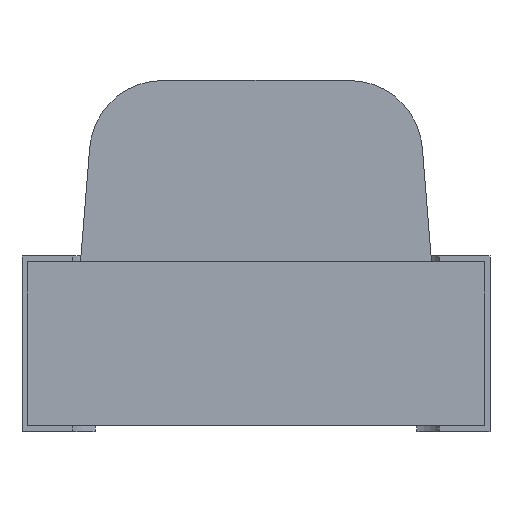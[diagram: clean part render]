
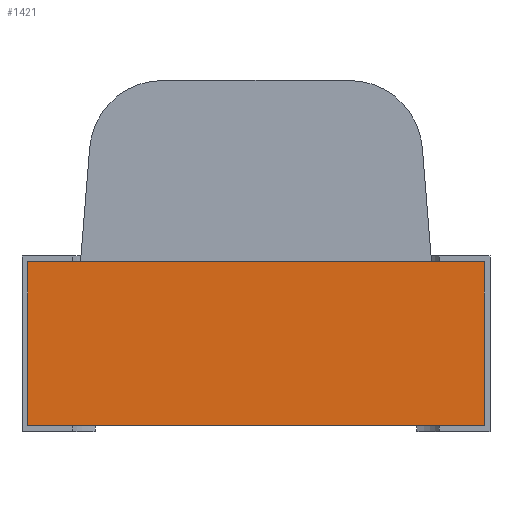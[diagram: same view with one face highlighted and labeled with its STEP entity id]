
A CAD part, front view. The second image highlights one B-rep face of the part: STEP entity #1421.
In plain terms, the highlighted planar face has unit normal (0, -1, 0).
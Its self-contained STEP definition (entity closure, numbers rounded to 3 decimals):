
#114 = LINE ( 'NONE', #1002, #172 ) ;
#131 = VECTOR ( 'NONE', #1004, 1000. ) ;
#133 = LINE ( 'NONE', #1066, #137 ) ;
#137 = VECTOR ( 'NONE', #1084, 1000. ) ;
#172 = VECTOR ( 'NONE', #1000, 1000. ) ;
#176 = LINE ( 'NONE', #1006, #131 ) ;
#211 = DIRECTION ( 'NONE',  ( 0., 0., 1. ) ) ;
#219 = CARTESIAN_POINT ( 'NONE',  ( -0.78, 0., -0.28 ) ) ;
#326 = ORIENTED_EDGE ( 'NONE', *, *, #880, .F. ) ;
#327 = ORIENTED_EDGE ( 'NONE', *, *, #896, .F. ) ;
#328 = ORIENTED_EDGE ( 'NONE', *, *, #898, .F. ) ;
#609 = ORIENTED_EDGE ( 'NONE', *, *, #911, .F. ) ;
#662 = CARTESIAN_POINT ( 'NONE',  ( -0.78, 0., -0.28 ) ) ;
#666 = CARTESIAN_POINT ( 'NONE',  ( 0.78, 0., 0.28 ) ) ;
#676 = CARTESIAN_POINT ( 'NONE',  ( -0.78, 0., 0.28 ) ) ;
#685 = CARTESIAN_POINT ( 'NONE',  ( 0.78, 0., -0.28 ) ) ;
#880 = EDGE_CURVE ( 'NONE', #1811, #1782, #1808, .T. ) ;
#896 = EDGE_CURVE ( 'NONE', #1776, #1811, #176, .T. ) ;
#898 = EDGE_CURVE ( 'NONE', #1790, #1776, #114, .T. ) ;
#911 = EDGE_CURVE ( 'NONE', #1782, #1790, #133, .T. ) ;
#919 = DIRECTION ( 'NONE',  ( 0., 0., 1. ) ) ;
#920 = DIRECTION ( 'NONE',  ( 0., 1., 0. ) ) ;
#925 = CARTESIAN_POINT ( 'NONE',  ( 0., 0., 0. ) ) ;
#926 = PLANE ( 'NONE',  #1899 ) ;
#1000 = DIRECTION ( 'NONE',  ( 0., 0., -1. ) ) ;
#1002 = CARTESIAN_POINT ( 'NONE',  ( 0.78, 0., -0.28 ) ) ;
#1004 = DIRECTION ( 'NONE',  ( -1., 0., 0. ) ) ;
#1006 = CARTESIAN_POINT ( 'NONE',  ( -0.78, 0., -0.28 ) ) ;
#1066 = CARTESIAN_POINT ( 'NONE',  ( -0.78, 0., 0.28 ) ) ;
#1084 = DIRECTION ( 'NONE',  ( 1., 0., 0. ) ) ;
#1421 = ADVANCED_FACE ( 'NONE', ( #1997 ), #926, .F. ) ;
#1696 = EDGE_LOOP ( 'NONE', ( #326, #327, #328, #609 ) ) ;
#1776 = VERTEX_POINT ( 'NONE', #685 ) ;
#1782 = VERTEX_POINT ( 'NONE', #676 ) ;
#1790 = VERTEX_POINT ( 'NONE', #666 ) ;
#1808 = LINE ( 'NONE', #219, #1854 ) ;
#1811 = VERTEX_POINT ( 'NONE', #662 ) ;
#1854 = VECTOR ( 'NONE', #211, 1000. ) ;
#1899 = AXIS2_PLACEMENT_3D ( 'NONE', #925, #920, #919 ) ;
#1997 = FACE_OUTER_BOUND ( 'NONE', #1696, .T. ) ;
